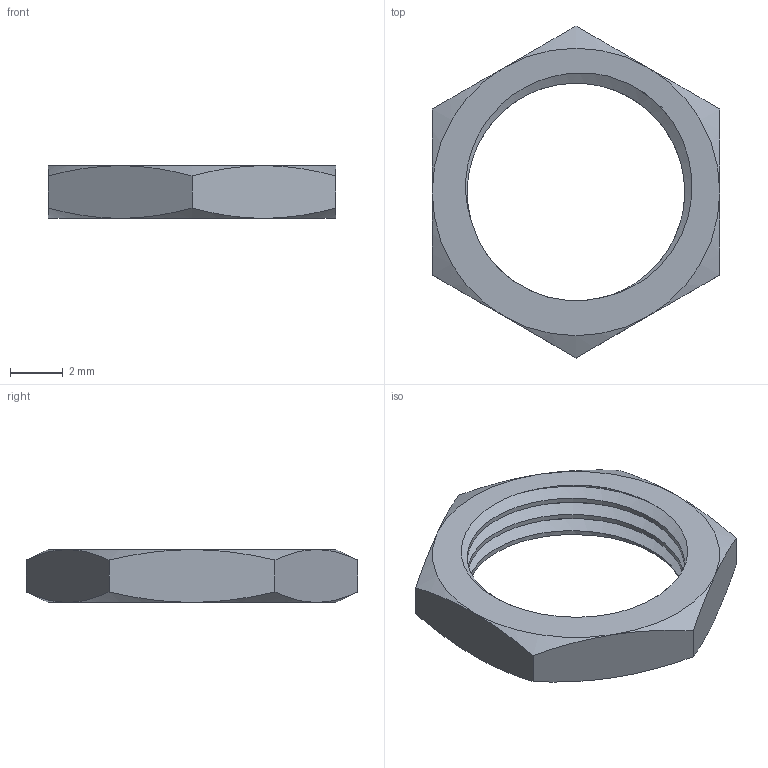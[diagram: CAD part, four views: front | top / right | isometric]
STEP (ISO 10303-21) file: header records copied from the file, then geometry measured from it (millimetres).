
FILE_DESCRIPTION (( 'STEP AP203' ), '1' );
FILE_NAME ('34-1032-3A.STEP', '2026-09-15T21:47:29', ( '' ), ( '' ), 'SwSTEP 2.0', 'SolidWorks 2026', '' );
FILE_SCHEMA (( 'CONFIG_CONTROL_DESIGN' ));
Length unit declared in the file: millimetre
Products named in the file (1): 34-1032-3A
Bounding box: 10.9 x 12.59 x 2 mm (x, y, z)
Volume: 86.8 mm3; surface area: 247.1 mm2
Topology: 1 solids, 1 shells, 30 faces, 72 edges, 44 vertices
Faces by surface type: cone 12, plane 8, cylinder 7, bspline 3
Entity records: 1642 total; most frequent: CARTESIAN_POINT 970, ORIENTED_EDGE 144, DIRECTION 98, EDGE_CURVE 72, VERTEX_POINT 44, AXIS2_PLACEMENT_3D 43, EDGE_LOOP 32, B_SPLINE_CURVE_WITH_KNOTS 30
